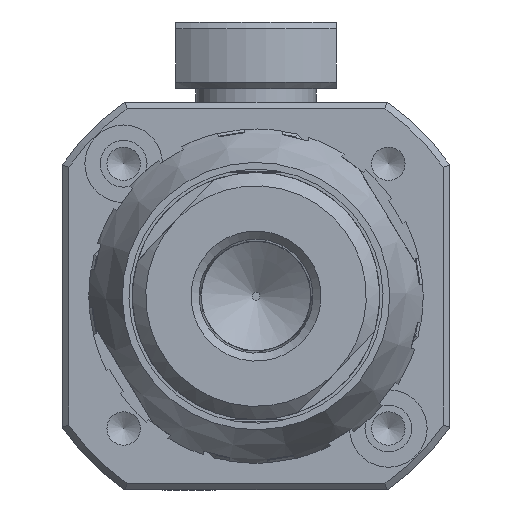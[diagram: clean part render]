
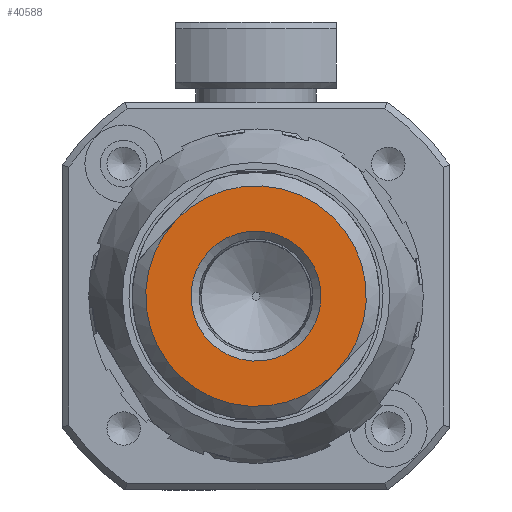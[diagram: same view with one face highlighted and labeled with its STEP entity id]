
A CAD part, front view. The second image highlights one B-rep face of the part: STEP entity #40588.
In plain terms, the highlighted planar face has unit normal (0, -1, 0).
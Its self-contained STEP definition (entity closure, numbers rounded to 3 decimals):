
#2508 = CARTESIAN_POINT ( 'NONE',  ( -13.228, -174.244, 998.499 ) ) ;
#2862 = ORIENTED_EDGE ( 'NONE', *, *, #11834, .T. ) ;
#3834 = ORIENTED_EDGE ( 'NONE', *, *, #32379, .F. ) ;
#4936 = VERTEX_POINT ( 'NONE', #23676 ) ;
#4941 = CARTESIAN_POINT ( 'NONE',  ( -7.228, -174.244, 992.836 ) ) ;
#8779 = DIRECTION ( 'NONE',  ( -0.727, 0., 0.686 ) ) ;
#8957 = FACE_OUTER_BOUND ( 'NONE', #24066, .T. ) ;
#9197 = DIRECTION ( 'NONE',  ( 0.727, 0., -0.686 ) ) ;
#9979 = DIRECTION ( 'NONE',  ( 0., -1., 0. ) ) ;
#11834 = EDGE_CURVE ( 'NONE', #16024, #45037, #42319, .T. ) ;
#12176 = EDGE_LOOP ( 'NONE', ( #3834 ) ) ;
#12900 = AXIS2_PLACEMENT_3D ( 'NONE', #31599, #42936, #9197 ) ;
#13451 = CARTESIAN_POINT ( 'NONE',  ( -13.228, -174.244, 998.499 ) ) ;
#16024 = VERTEX_POINT ( 'NONE', #42798 ) ;
#16606 = FACE_BOUND ( 'NONE', #12176, .T. ) ;
#16666 = CARTESIAN_POINT ( 'NONE',  ( -13.228, -174.244, 998.499 ) ) ;
#22987 = ORIENTED_EDGE ( 'NONE', *, *, #34603, .T. ) ;
#23676 = CARTESIAN_POINT ( 'NONE',  ( -16.765, -174.244, 1001.837 ) ) ;
#23978 = PLANE ( 'NONE',  #12900 ) ;
#24066 = EDGE_LOOP ( 'NONE', ( #2862, #22987 ) ) ;
#25125 = AXIS2_PLACEMENT_3D ( 'NONE', #2508, #43412, #28852 ) ;
#28852 = DIRECTION ( 'NONE',  ( -0.727, 0., 0.686 ) ) ;
#31599 = CARTESIAN_POINT ( 'NONE',  ( -13.228, -174.244, 998.499 ) ) ;
#32379 = EDGE_CURVE ( 'NONE', #4936, #4936, #43219, .T. ) ;
#32401 = DIRECTION ( 'NONE',  ( -0.727, 0., 0.686 ) ) ;
#33914 = CIRCLE ( 'NONE', #47318, 8.25 ) ;
#34603 = EDGE_CURVE ( 'NONE', #45037, #16024, #33914, .T. ) ;
#40588 = ADVANCED_FACE ( 'NONE', ( #16606, #8957 ), #23978, .F. ) ;
#40748 = AXIS2_PLACEMENT_3D ( 'NONE', #16666, #46440, #8779 ) ;
#42319 = CIRCLE ( 'NONE', #40748, 8.25 ) ;
#42798 = CARTESIAN_POINT ( 'NONE',  ( -19.228, -174.244, 1004.161 ) ) ;
#42936 = DIRECTION ( 'NONE',  ( 0., 1., 0. ) ) ;
#43219 = CIRCLE ( 'NONE', #25125, 4.864 ) ;
#43412 = DIRECTION ( 'NONE',  ( 0., -1., 0. ) ) ;
#45037 = VERTEX_POINT ( 'NONE', #4941 ) ;
#46440 = DIRECTION ( 'NONE',  ( 0., -1., 0. ) ) ;
#47318 = AXIS2_PLACEMENT_3D ( 'NONE', #13451, #9979, #32401 ) ;
